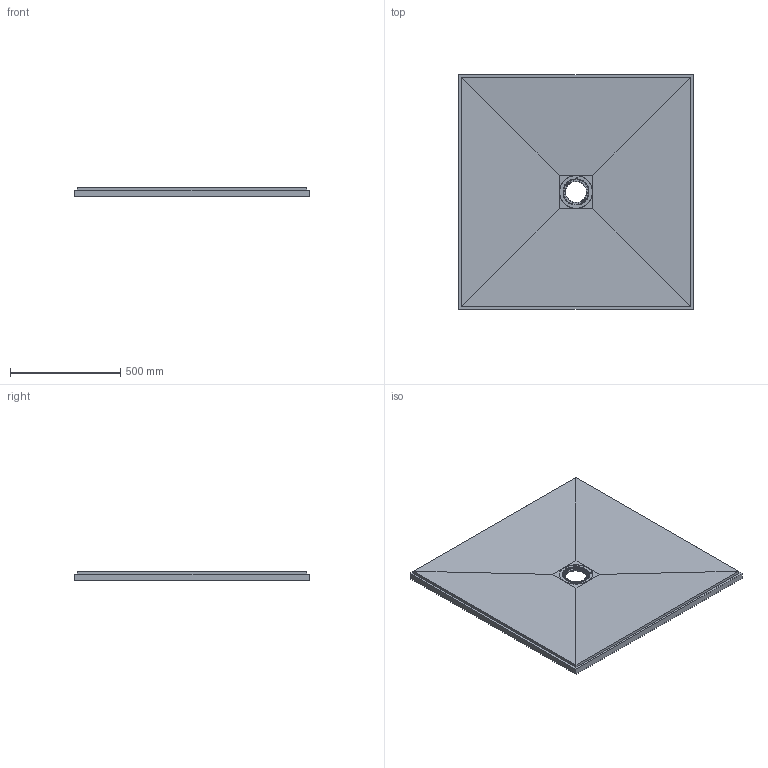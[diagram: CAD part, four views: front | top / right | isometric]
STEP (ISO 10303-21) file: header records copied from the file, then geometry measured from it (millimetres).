
FILE_DESCRIPTION(/* description */ ('Fertigteil'),/* implementation_level */ '2;1');
FILE_NAME(/* name */ 'C:\Users\fuser-vault-job\AppData\Local\Temp\MuM_ifajpq2w.1j0\D-000002033.iam_.step',/* time_stamp */ '2022-07-14T15:19:10+02:00',/* author */ ('ds'),/* organization */ (''),/* preprocessor_version */ 'ST-DEVELOPER v18.1',/* originating_system */ 'Autodesk Inventor 2020',/* authorisation */ '');
FILE_SCHEMA (('AUTOMOTIVE_DESIGN { 1 0 10303 214 3 1 1 }'));
Products named in the file (3): 073740066; 073740066_1; DD0000003
Assembly tree (2 placements, depth 2):
  073740066
    073740066_1
    DD0000003
Bounding box: 1066.8 x 1066.8 x 40 mm (x, y, z)
Volume: 37213735.8 mm3; surface area: 2471433.7 mm2
Topology: 2 solids, 2 shells, 743 faces, 2186 edges, 1467 vertices
Faces by surface type: bspline 372, torus 115, cone 78, cylinder 76, plane 68, sphere 34
Full cylindrical faces by diameter (mm): 6 x3, 151 x1
Entity records: 63124 total; most frequent: CARTESIAN_POINT 44887, ORIENTED_EDGE 4326, DIRECTION 3299, EDGE_CURVE 2163, VERTEX_POINT 1458, AXIS2_PLACEMENT_3D 1339, CIRCLE 813, EDGE_LOOP 803
